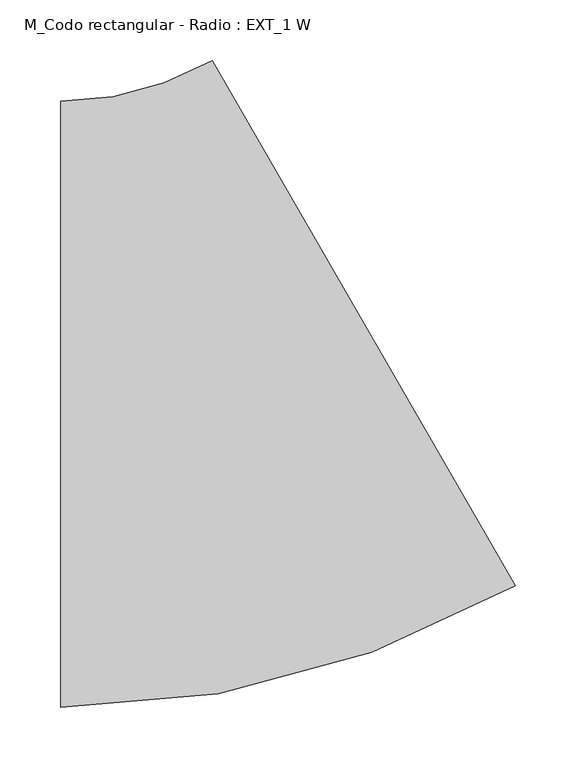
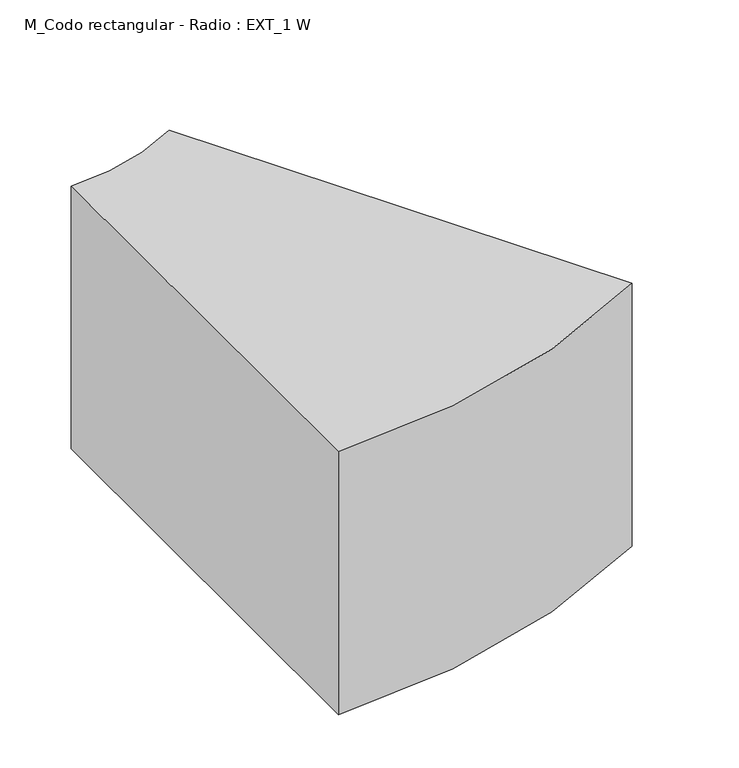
"""IFC4 building model written with IfcOpenShell, lengths in millimetres: duct fitting geometry, M_Codo rectangular - Radio : EXT_1 W."""

import ifcopenshell
import ifcopenshell.guid

model = None  # the IFC model being written
_history = None  # IfcOwnerHistory: only IFC2X3 demands one
_inside = {}  # id of a spatial element -> (the spatial element, [elements in it])
_under = {}  # id of a project, library or spatial element -> (it, [spatial elements below it])
_declared = {}  # id of a project -> (the project, [libraries it declares])
_typed = {}  # id of a type object -> (the type object, [elements of that type])
_made_of = {}  # id of a material, layer set ... -> (it, [elements and type objects made of it])


def new_model(schema):
    """Start an empty IFC model of exactly this schema.

    Asked for "IFC4X3", IfcOpenShell would pick the latest addendum, in which some entities
    have other attributes; the version numbers below select the first issue.
    IFC2X3 requires an IfcOwnerHistory on every rooted entity: one is made here for all.
    """
    global model, _history
    if schema == "IFC4X3":
        model = ifcopenshell.file(schema_version=(4, 3, 0, 0))
    else:
        model = ifcopenshell.file(schema=schema)
    _inside.clear()
    _under.clear()
    _declared.clear()
    _typed.clear()
    _made_of.clear()
    _history = None
    if model.schema == "IFC2X3":
        org = make("IfcOrganization", Name="unknown")
        user = make(
            "IfcPersonAndOrganization",
            ThePerson=make("IfcPerson", FamilyName="unknown"),
            TheOrganization=org,
        )
        app = make(
            "IfcApplication",
            ApplicationDeveloper=org,
            Version="unknown",
            ApplicationFullName="unknown",
            ApplicationIdentifier="unknown",
        )
        _history = make(
            "IfcOwnerHistory",
            OwningUser=user,
            OwningApplication=app,
            ChangeAction="ADDED",
            CreationDate=0,
        )
    return model


def make(cls, **values):
    """One entity of the class cls with the attributes given. An attribute that is None is left unset."""
    return model.create_entity(
        cls, **{name: value for name, value in values.items() if value is not None}
    )


def rooted(cls, **values):
    """An entity with a GlobalId (a new one), such as an element, a storey or a relation."""
    return make(cls, GlobalId=ifcopenshell.guid.new(), OwnerHistory=_history, **values)


def si_unit(unit_type, name, prefix=None):
    """IfcSIUnit, for example si_unit("LENGTHUNIT", "METRE", prefix="MILLI")."""
    return make("IfcSIUnit", UnitType=unit_type, Prefix=prefix, Name=name)


def assignment(units):
    """IfcUnitAssignment: the units of a project."""
    return None if units is None else make("IfcUnitAssignment", Units=units)


def point(xyz):
    """IfcCartesianPoint."""
    return None if xyz is None else make("IfcCartesianPoint", Coordinates=xyz)


def direction(xyz):
    """IfcDirection."""
    return None if xyz is None else make("IfcDirection", DirectionRatios=xyz)


def frame(location, z_axis=None, x_axis=None):
    """IfcAxis2Placement3D, a coordinate frame: its origin and axes. An axis left out is left unset."""
    return make(
        "IfcAxis2Placement3D",
        Location=point(location),
        Axis=direction(z_axis),
        RefDirection=direction(x_axis),
    )


def frame_2d(location, x_axis=None):
    """IfcAxis2Placement2D, a coordinate frame in the plane: its origin and x axis."""
    return make(
        "IfcAxis2Placement2D", Location=point(location), RefDirection=direction(x_axis)
    )


def origin():
    """The frame at (0, 0, 0) with its axes left unset."""
    return frame((0.0, 0.0, 0.0))


def place(relative_to, where):
    """IfcLocalPlacement: puts the frame where relative to a parent placement (None: the world)."""
    return make(
        "IfcLocalPlacement", PlacementRelTo=relative_to, RelativePlacement=where
    )


def context(
    kind, dimensions, precision=None, world=None, true_north=None, identifier=None
):
    """IfcGeometricRepresentationContext, for example the 3D "Model" context."""
    return make(
        "IfcGeometricRepresentationContext",
        ContextIdentifier=identifier,
        ContextType=kind,
        CoordinateSpaceDimension=dimensions,
        Precision=precision,
        WorldCoordinateSystem=world,
        TrueNorth=true_north,
    )


def project(units=None, contexts=None):
    """IfcProject with its units and contexts."""
    return rooted(
        "IfcProject",
        Name="project",
        RepresentationContexts=contexts,
        UnitsInContext=assignment(units),
    )


def spatial(cls, under=None, at=None, **own):
    """A site, building, storey or space (cls), placed at a placement, below another one or the project."""
    s = rooted(cls, ObjectPlacement=at, **own)
    if under is not None:
        _under.setdefault(under.id(), (under, []))[1].append(s)
    return s


def polyline(points):
    """IfcPolyline through the points."""
    return make("IfcPolyline", Points=[point(p) for p in points])


def circle_curve(where, radius):
    """IfcCircle in the frame where."""
    return make("IfcCircle", Position=where, Radius=radius)


def trimmed(basis, trim1, trim2, sense, master):
    """IfcTrimmedCurve: the piece of a basis curve between two trims."""
    return make(
        "IfcTrimmedCurve",
        BasisCurve=basis,
        Trim1=trim1,
        Trim2=trim2,
        SenseAgreement=sense,
        MasterRepresentation=master,
    )


def segment(curve, same_sense, transition):
    """IfcCompositeCurveSegment."""
    return make(
        "IfcCompositeCurveSegment",
        Transition=transition,
        SameSense=same_sense,
        ParentCurve=curve,
    )


def composite_curve(segments, self_intersect=None):
    """IfcCompositeCurve: segments joined end to end."""
    return make("IfcCompositeCurve", Segments=segments, SelfIntersect=self_intersect)


def outline(outer, holes=None, kind="AREA"):
    """IfcArbitraryClosedProfileDef: a profile drawn as a closed curve; with holes, ...WithVoids."""
    if holes is None:
        return make("IfcArbitraryClosedProfileDef", ProfileType=kind, OuterCurve=outer)
    return make(
        "IfcArbitraryProfileDefWithVoids",
        ProfileType=kind,
        OuterCurve=outer,
        InnerCurves=holes,
    )


def extrude(swept, where, along, depth):
    """IfcExtrudedAreaSolid: the profile swept, set in the frame where, extruded along a direction by depth."""
    return make(
        "IfcExtrudedAreaSolid",
        SweptArea=swept,
        Position=where,
        ExtrudedDirection=direction(along),
        Depth=depth,
    )


def shape(context_of_items, identifier, shape_type, items):
    """IfcShapeRepresentation: the items that make up one representation, for example the "Body"."""
    return make(
        "IfcShapeRepresentation",
        ContextOfItems=context_of_items,
        RepresentationIdentifier=identifier,
        RepresentationType=shape_type,
        Items=items,
    )


def source(mapping_origin, context_of_items, identifier, shape_type, items):
    """IfcRepresentationMap: a shape defined once, which mapped items show again and again."""
    return make(
        "IfcRepresentationMap",
        MappingOrigin=mapping_origin,
        MappedRepresentation=shape(context_of_items, identifier, shape_type, items),
    )


def transform(
    local_origin,
    x_axis=None,
    y_axis=None,
    z_axis=None,
    scale=None,
    scale2=None,
    scale3=None,
    uniform=True,
):
    """IfcCartesianTransformationOperator3D, or its non-uniform kind. x_axis, y_axis, z_axis: its Axis1, 2, 3."""
    if uniform:
        return make(
            "IfcCartesianTransformationOperator3D",
            Axis1=direction(x_axis),
            Axis2=direction(y_axis),
            LocalOrigin=point(local_origin),
            Scale=scale,
            Axis3=direction(z_axis),
        )
    return make(
        "IfcCartesianTransformationOperator3DnonUniform",
        Axis1=direction(x_axis),
        Axis2=direction(y_axis),
        LocalOrigin=point(local_origin),
        Scale=scale,
        Axis3=direction(z_axis),
        Scale2=scale2,
        Scale3=scale3,
    )


def mapped(mapping_source, mapping_target):
    """IfcMappedItem: shows the shape of a source again, moved by a transform."""
    return make(
        "IfcMappedItem", MappingSource=mapping_source, MappingTarget=mapping_target
    )


def made_of(thing, what):
    """Note that an element or type object is made of a material, layer set ...; save() writes the relation."""
    if what is not None:
        _made_of.setdefault(what.id(), (what, []))[1].append(thing)
    return thing


def element(
    cls,
    number,
    at=None,
    inside=None,
    cuts=None,
    type_object=None,
    material=None,
    context=None,
    identifier="Body",
    shape_type=None,
    held_by="IfcProductDefinitionShape",
    body=None,
    shapes=None,
    **own,
):
    """One element of the class cls, such as IfcWall. Its Tag is "e" and its number.

    at: its placement. inside: the storey or other place that contains it. cuts: it is an
    opening in that element (IfcRelVoidsElement). A single representation is given by context,
    identifier, shape_type and body (its items); several are given by shapes. held_by: the class
    of the entity that holds the representations. save() writes the other relations.
    """
    e = rooted(cls, Tag="e%d" % number, ObjectPlacement=at, **own)
    if body is not None:
        shapes = [shape(context, identifier, shape_type, body)]
    if shapes is not None:
        e.Representation = make(held_by, Representations=shapes)
    if inside is not None:
        _inside.setdefault(inside.id(), (inside, []))[1].append(e)
    if cuts is not None:
        rooted(
            "IfcRelVoidsElement", RelatingBuildingElement=cuts, RelatedOpeningElement=e
        )
    if type_object is not None:
        _typed.setdefault(type_object.id(), (type_object, []))[1].append(e)
    return made_of(e, material)


def aggregate(whole, parts):
    """IfcRelAggregates: a whole, such as a stair, and the parts it consists of."""
    return rooted("IfcRelAggregates", RelatingObject=whole, RelatedObjects=parts)


def save(model, path):
    """Write the relations noted so far, then the file.

    IfcRelAggregates (storeys below a building ...), IfcRelContainedInSpatialStructure (elements
    in a storey), IfcRelDefinesByType, IfcRelAssociatesMaterial and IfcRelDeclares: one each for
    every whole, place, type object, material and project.
    """
    for whole, parts in _under.values():
        aggregate(whole, parts)
    for where, things in _inside.values():
        rooted(
            "IfcRelContainedInSpatialStructure",
            RelatedElements=things,
            RelatingStructure=where,
        )
    for kind, things in _typed.values():
        rooted("IfcRelDefinesByType", RelatedObjects=things, RelatingType=kind)
    for what, things in _made_of.values():
        rooted("IfcRelAssociatesMaterial", RelatedObjects=things, RelatingMaterial=what)
    for by, libraries in _declared.values():
        rooted("IfcRelDeclares", RelatingContext=by, RelatedDefinitions=libraries)
    model.write(path)


def m_codo_rectangular_radio_ext_1_w_15f3d34f(model_context):
    return source(origin(), model_context, "Body", "SweptSolid", [
        extrude(outline(composite_curve([segment(trimmed(circle_curve(frame_2d((-133.9745962, 500.0)), 750.0), [point((241.0254038, -149.5190528))], [point((-133.9745962, -250.0))], False, "CARTESIAN"), True, "CONTINUOUS"), segment(polyline([(-133.9745962, -250.0), (-133.9745962, 250.0)]), True, "CONTINUOUS"), segment(trimmed(circle_curve(frame_2d((-133.9745962, 500.0)), 250.0), [point((-133.9745962, 250.0))], [point((-8.9745962, 283.4936491))], True, "CARTESIAN"), True, "CONTINUOUS"), segment(polyline([(-8.9745962, 283.4936491), (241.0254038, -149.5190528)]), True, "CONTINUOUS")], self_intersect=False)), frame((0.0, 0.0, -150.0), z_axis=(0.0, 0.0, 1.0), x_axis=(1.0, 0.0, 0.0)), (0.0, 0.0, 1.0), 300.0),
    ])


if __name__ == "__main__":
    model = new_model("IFC4")
    model_context = context("Model", 3, world=origin())
    ifc_project = project(units=[si_unit("LENGTHUNIT", "METRE", prefix="MILLI")], contexts=[model_context])
    site = spatial("IfcSite", under=ifc_project)
    building = spatial("IfcBuilding", under=site)
    placement = place(None, origin())
    m_codo_rectangular_radio_ext_1_w_shape = m_codo_rectangular_radio_ext_1_w_15f3d34f(model_context)
    element("IfcDuctFitting", 1, ObjectType="M_Codo rectangular - Radio : EXT_1 W", at=placement, inside=building, context=model_context, shape_type="MappedRepresentation", body=[
        mapped(m_codo_rectangular_radio_ext_1_w_shape, transform((0.0, 0.0, 0.0), x_axis=(1.0, 0.0, 0.0), y_axis=(0.0, 1.0, 0.0), z_axis=(0.0, 0.0, 1.0))),
    ])
    save(model, "model.ifc")
